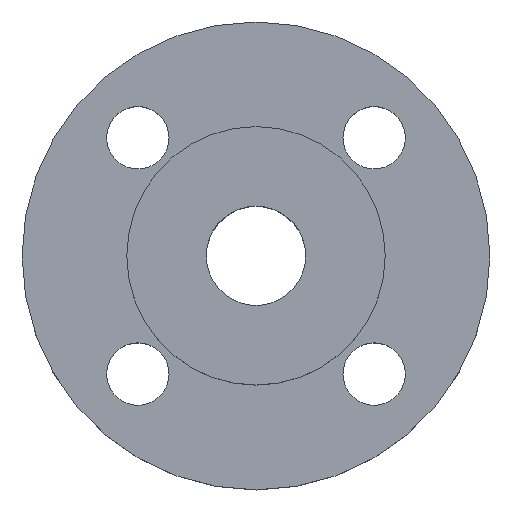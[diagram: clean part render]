
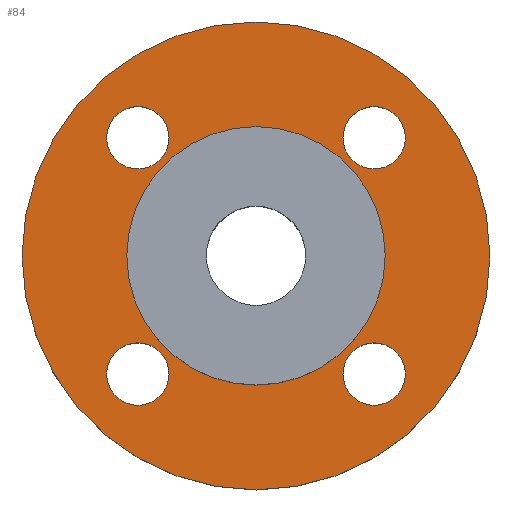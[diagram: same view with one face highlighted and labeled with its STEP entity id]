
A CAD part, top view. The second image highlights one B-rep face of the part: STEP entity #84.
In plain terms, the highlighted planar face has unit normal (0, 0, 1).
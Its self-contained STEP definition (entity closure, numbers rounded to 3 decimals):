
#20 = DIRECTION ( 'NONE',  ( -1., 0., 0. ) ) ;
#21 = DIRECTION ( 'NONE',  ( 0., 0., -1. ) ) ;
#22 = CARTESIAN_POINT ( 'NONE',  ( -26.517, 26.517, 0. ) ) ;
#26 = ORIENTED_EDGE ( 'NONE', *, *, #704, .T. ) ;
#31 = CARTESIAN_POINT ( 'NONE',  ( 33.517, -26.517, 0. ) ) ;
#33 = ORIENTED_EDGE ( 'NONE', *, *, #580, .T. ) ;
#39 = ORIENTED_EDGE ( 'NONE', *, *, #480, .T. ) ;
#48 = AXIS2_PLACEMENT_3D ( 'NONE', #22, #21, #20 ) ;
#49 = CARTESIAN_POINT ( 'NONE',  ( 33.517, 26.517, 0. ) ) ;
#52 = CARTESIAN_POINT ( 'NONE',  ( -25., 0., 0. ) ) ;
#54 = CARTESIAN_POINT ( 'NONE',  ( 19.517, -26.517, 0. ) ) ;
#55 = DIRECTION ( 'NONE',  ( 0., 0., -1. ) ) ;
#56 = DIRECTION ( 'NONE',  ( -1., 0., 0. ) ) ;
#71 = CARTESIAN_POINT ( 'NONE',  ( -26.517, -26.517, 0. ) ) ;
#80 = AXIS2_PLACEMENT_3D ( 'NONE', #543, #545, #547 ) ;
#84 = ADVANCED_FACE ( 'NONE', ( #184, #186, #188, #190, #192, #194 ), #196, .T. ) ;
#86 = AXIS2_PLACEMENT_3D ( 'NONE', #129, #152, #157 ) ;
#104 = CARTESIAN_POINT ( 'NONE',  ( -33.517, 26.517, 0. ) ) ;
#129 = CARTESIAN_POINT ( 'NONE',  ( -26.517, -26.517, 0. ) ) ;
#130 = CARTESIAN_POINT ( 'NONE',  ( 0., 0., 0. ) ) ;
#150 = CARTESIAN_POINT ( 'NONE',  ( -33.517, -26.517, 0. ) ) ;
#152 = DIRECTION ( 'NONE',  ( 0., 0., -1. ) ) ;
#157 = DIRECTION ( 'NONE',  ( -1., 0., 0. ) ) ;
#167 = CARTESIAN_POINT ( 'NONE',  ( 25., 0., 0. ) ) ;
#182 = DIRECTION ( 'NONE',  ( 0., 0., -1. ) ) ;
#184 = FACE_BOUND ( 'NONE', #775, .T. ) ;
#186 = FACE_BOUND ( 'NONE', #443, .T. ) ;
#188 = FACE_BOUND ( 'NONE', #799, .T. ) ;
#190 = FACE_BOUND ( 'NONE', #439, .T. ) ;
#192 = FACE_BOUND ( 'NONE', #807, .T. ) ;
#194 = FACE_OUTER_BOUND ( 'NONE', #805, .T. ) ;
#196 = PLANE ( 'NONE',  #726 ) ;
#197 = CARTESIAN_POINT ( 'NONE',  ( 0., 0., 0. ) ) ;
#198 = DIRECTION ( 'NONE',  ( 0., 0., 1. ) ) ;
#199 = DIRECTION ( 'NONE',  ( 1., 0., 0. ) ) ;
#212 = AXIS2_PLACEMENT_3D ( 'NONE', #130, #182, #619 ) ;
#252 = AXIS2_PLACEMENT_3D ( 'NONE', #909, #915, #917 ) ;
#258 = DIRECTION ( 'NONE',  ( -1., 0., 0. ) ) ;
#298 = EDGE_CURVE ( 'NONE', #634, #776, #359, .T. ) ;
#327 = VERTEX_POINT ( 'NONE', #578 ) ;
#328 = CIRCLE ( 'NONE', #413, 25. ) ;
#339 = DIRECTION ( 'NONE',  ( 1., 0., 0. ) ) ;
#340 = DIRECTION ( 'NONE',  ( 0., 0., 1. ) ) ;
#341 = CARTESIAN_POINT ( 'NONE',  ( 0., 0., 0. ) ) ;
#348 = CIRCLE ( 'NONE', #442, 7. ) ;
#359 = CIRCLE ( 'NONE', #80, 7. ) ;
#362 = CIRCLE ( 'NONE', #506, 7. ) ;
#384 = CARTESIAN_POINT ( 'NONE',  ( 26.517, -26.517, 0. ) ) ;
#413 = AXIS2_PLACEMENT_3D ( 'NONE', #600, #55, #56 ) ;
#421 = DIRECTION ( 'NONE',  ( 0., 0., -1. ) ) ;
#428 = EDGE_CURVE ( 'NONE', #732, #327, #875, .T. ) ;
#430 = EDGE_CURVE ( 'NONE', #819, #687, #362, .T. ) ;
#437 = DIRECTION ( 'NONE',  ( -1., 0., 0. ) ) ;
#439 = EDGE_LOOP ( 'NONE', ( #538, #539 ) ) ;
#442 = AXIS2_PLACEMENT_3D ( 'NONE', #898, #899, #900 ) ;
#443 = EDGE_LOOP ( 'NONE', ( #536, #33 ) ) ;
#455 = EDGE_CURVE ( 'NONE', #776, #634, #348, .T. ) ;
#480 = EDGE_CURVE ( 'NONE', #787, #766, #688, .T. ) ;
#498 = EDGE_CURVE ( 'NONE', #815, #657, #867, .T. ) ;
#499 = ORIENTED_EDGE ( 'NONE', *, *, #735, .T. ) ;
#500 = ORIENTED_EDGE ( 'NONE', *, *, #430, .T. ) ;
#504 = EDGE_CURVE ( 'NONE', #657, #815, #328, .T. ) ;
#506 = AXIS2_PLACEMENT_3D ( 'NONE', #859, #860, #861 ) ;
#536 = ORIENTED_EDGE ( 'NONE', *, *, #833, .T. ) ;
#538 = ORIENTED_EDGE ( 'NONE', *, *, #298, .T. ) ;
#539 = ORIENTED_EDGE ( 'NONE', *, *, #455, .T. ) ;
#542 = ORIENTED_EDGE ( 'NONE', *, *, #504, .T. ) ;
#543 = CARTESIAN_POINT ( 'NONE',  ( 26.517, 26.517, 0. ) ) ;
#545 = DIRECTION ( 'NONE',  ( 0., 0., -1. ) ) ;
#546 = ORIENTED_EDGE ( 'NONE', *, *, #498, .T. ) ;
#547 = DIRECTION ( 'NONE',  ( -1., 0., 0. ) ) ;
#549 = ORIENTED_EDGE ( 'NONE', *, *, #884, .T. ) ;
#552 = CARTESIAN_POINT ( 'NONE',  ( 19.517, 26.517, 0. ) ) ;
#558 = ORIENTED_EDGE ( 'NONE', *, *, #428, .T. ) ;
#578 = CARTESIAN_POINT ( 'NONE',  ( 52.5, 0., 0. ) ) ;
#580 = EDGE_CURVE ( 'NONE', #635, #752, #639, .T. ) ;
#600 = CARTESIAN_POINT ( 'NONE',  ( 0., 0., 0. ) ) ;
#613 = CIRCLE ( 'NONE', #48, 7. ) ;
#619 = DIRECTION ( 'NONE',  ( -1., 0., 0. ) ) ;
#632 = CARTESIAN_POINT ( 'NONE',  ( -52.5, 0., 0. ) ) ;
#633 = CARTESIAN_POINT ( 'NONE',  ( -19.517, 26.517, 0. ) ) ;
#634 = VERTEX_POINT ( 'NONE', #49 ) ;
#635 = VERTEX_POINT ( 'NONE', #150 ) ;
#639 = CIRCLE ( 'NONE', #86, 7. ) ;
#657 = VERTEX_POINT ( 'NONE', #167 ) ;
#687 = VERTEX_POINT ( 'NONE', #31 ) ;
#688 = CIRCLE ( 'NONE', #252, 7. ) ;
#703 = CIRCLE ( 'NONE', #813, 7. ) ;
#704 = EDGE_CURVE ( 'NONE', #766, #787, #613, .T. ) ;
#720 = AXIS2_PLACEMENT_3D ( 'NONE', #384, #421, #258 ) ;
#726 = AXIS2_PLACEMENT_3D ( 'NONE', #197, #198, #199 ) ;
#732 = VERTEX_POINT ( 'NONE', #632 ) ;
#735 = EDGE_CURVE ( 'NONE', #687, #819, #771, .T. ) ;
#738 = AXIS2_PLACEMENT_3D ( 'NONE', #341, #340, #339 ) ;
#752 = VERTEX_POINT ( 'NONE', #911 ) ;
#766 = VERTEX_POINT ( 'NONE', #633 ) ;
#771 = CIRCLE ( 'NONE', #720, 7. ) ;
#775 = EDGE_LOOP ( 'NONE', ( #499, #500 ) ) ;
#776 = VERTEX_POINT ( 'NONE', #552 ) ;
#787 = VERTEX_POINT ( 'NONE', #104 ) ;
#799 = EDGE_LOOP ( 'NONE', ( #26, #39 ) ) ;
#805 = EDGE_LOOP ( 'NONE', ( #549, #558 ) ) ;
#807 = EDGE_LOOP ( 'NONE', ( #542, #546 ) ) ;
#813 = AXIS2_PLACEMENT_3D ( 'NONE', #71, #827, #437 ) ;
#815 = VERTEX_POINT ( 'NONE', #52 ) ;
#819 = VERTEX_POINT ( 'NONE', #54 ) ;
#826 = AXIS2_PLACEMENT_3D ( 'NONE', #852, #857, #858 ) ;
#827 = DIRECTION ( 'NONE',  ( 0., 0., -1. ) ) ;
#833 = EDGE_CURVE ( 'NONE', #752, #635, #703, .T. ) ;
#852 = CARTESIAN_POINT ( 'NONE',  ( 0., 0., 0. ) ) ;
#857 = DIRECTION ( 'NONE',  ( 0., 0., 1. ) ) ;
#858 = DIRECTION ( 'NONE',  ( 1., 0., 0. ) ) ;
#859 = CARTESIAN_POINT ( 'NONE',  ( 26.517, -26.517, 0. ) ) ;
#860 = DIRECTION ( 'NONE',  ( 0., 0., -1. ) ) ;
#861 = DIRECTION ( 'NONE',  ( -1., 0., 0. ) ) ;
#867 = CIRCLE ( 'NONE', #212, 25. ) ;
#875 = CIRCLE ( 'NONE', #826, 52.5 ) ;
#882 = CIRCLE ( 'NONE', #738, 52.5 ) ;
#884 = EDGE_CURVE ( 'NONE', #327, #732, #882, .T. ) ;
#898 = CARTESIAN_POINT ( 'NONE',  ( 26.517, 26.517, 0. ) ) ;
#899 = DIRECTION ( 'NONE',  ( 0., 0., -1. ) ) ;
#900 = DIRECTION ( 'NONE',  ( -1., 0., 0. ) ) ;
#909 = CARTESIAN_POINT ( 'NONE',  ( -26.517, 26.517, 0. ) ) ;
#911 = CARTESIAN_POINT ( 'NONE',  ( -19.517, -26.517, 0. ) ) ;
#915 = DIRECTION ( 'NONE',  ( 0., 0., -1. ) ) ;
#917 = DIRECTION ( 'NONE',  ( -1., 0., 0. ) ) ;
